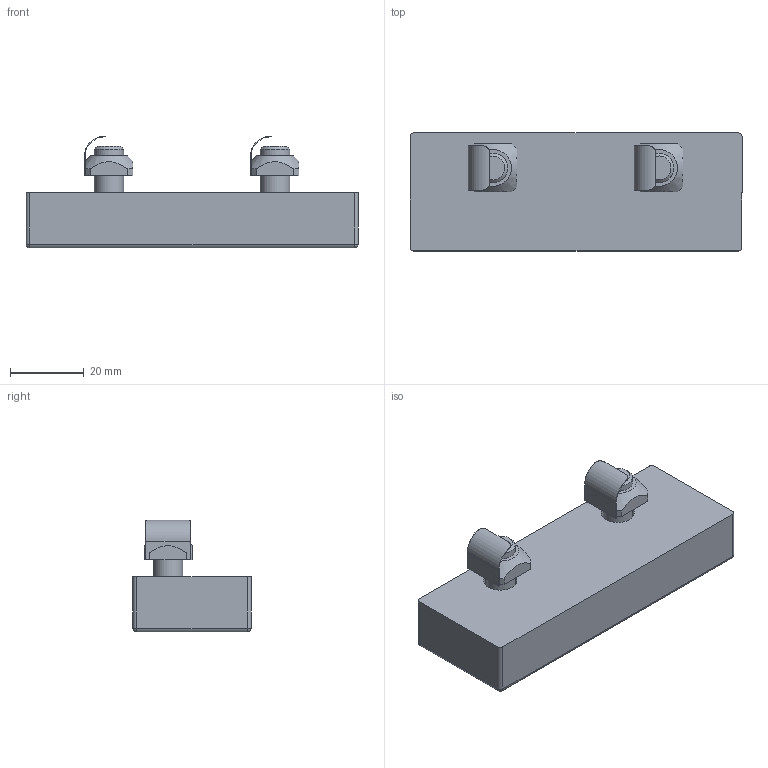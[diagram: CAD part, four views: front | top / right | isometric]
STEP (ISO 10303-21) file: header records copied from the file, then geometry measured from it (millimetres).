
FILE_DESCRIPTION((''),'2;1');
FILE_NAME('C:\Documents and Settings\Administrator\My Documents\Andys Backup Data\ANDY''S INVENTOR\INVENTOR LIBRARIES\MINITEC INVENTOR LIBRARIES\FASTENING ELEMENTS\A PACKED FILES\STEP FILES\21.1346 CONNECTING PLATE 90X32.stp','2010-06-24T08:31:15',('Administrator'),(''),'Autodesk Inventor 2009','Autodesk Inventor 2009','');
FILE_SCHEMA(('CONFIG_CONTROL_DESIGN'));
Length unit declared in the file: millimetre
Products named in the file (4): 21.1346 CONNECTING PLATE 90X32; 21.1280 M8X22; 21.1351_2 M8 SQUARE NUT POS FXG
Assembly tree (5 placements, depth 2):
  21.1346 CONNECTING PLATE 90X32
    21.1346 CONNECTING PLATE 90X32
    21.1280 M8X22  x2
    21.1351_2 M8 SQUARE NUT POS FXG  x2
Bounding box: 90 x 32 x 30.3 mm (x, y, z)
Volume: 44387.2 mm3; surface area: 13893.4 mm2
Topology: 5 solids, 5 shells, 92 faces, 220 edges, 138 vertices
Faces by surface type: plane 52, cylinder 24, cone 6, sphere 4, bspline 4, torus 2
Full cylindrical faces by diameter (mm): 8 x4, 9 x2, 13 x2
Entity records: 1733 total; most frequent: CARTESIAN_POINT 395, DIRECTION 264, ORIENTED_EDGE 238, EDGE_CURVE 119, AXIS2_PLACEMENT_3D 100, VERTEX_POINT 81, EDGE_LOOP 78, VECTOR 64
